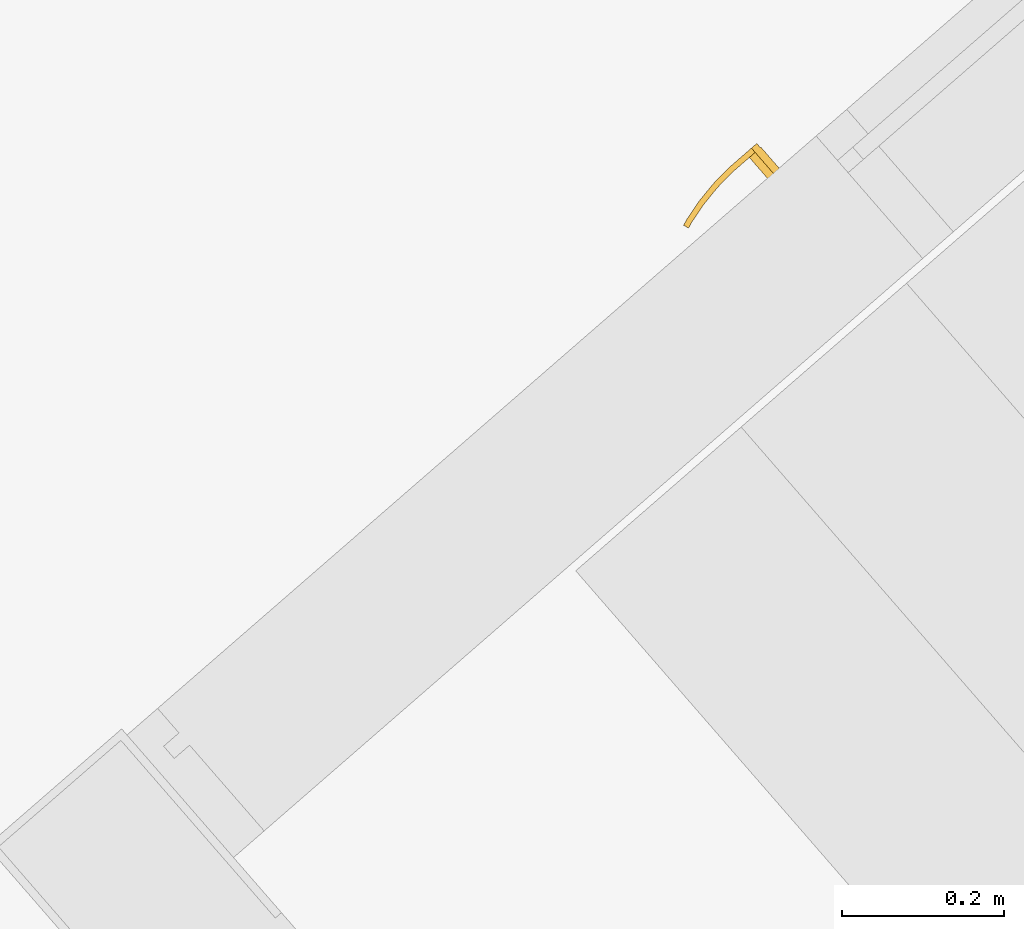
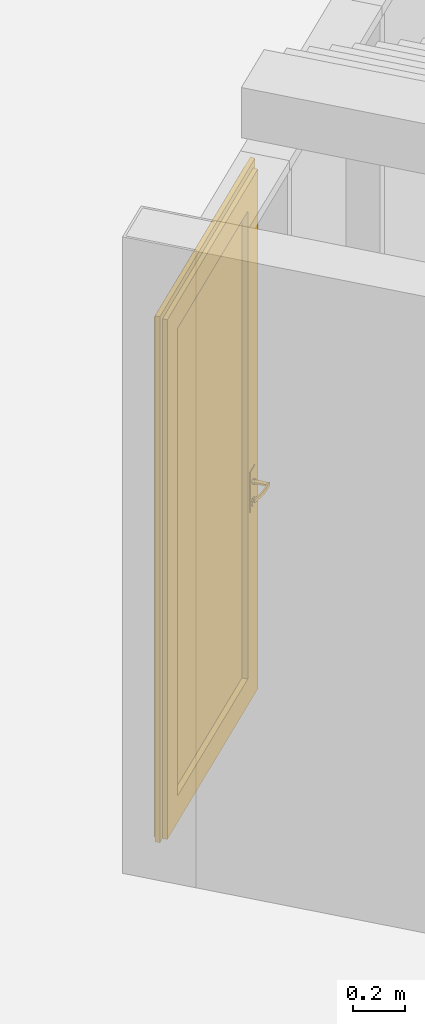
# One storey, part 108 of 124: 1 door, 1 element without a shape of its own.
"""IFC2X3 building model written with IfcOpenShell, lengths in millimetres."""

from ifc_helpers import new_model, entity, si_unit, converted_unit, derived_unit, money_unit, direction, frame, origin_with_axes, place, context, subcontext, project, spatial, open_shell, faceted_brep, surface_model, material, material_list, type_object, element, aggregate, save


model = new_model("IFC2X3")

# Units and contexts
model_context = context("Model", 3, precision=1e-05, world=origin_with_axes(), true_north=direction((0.0, 1.0)))
body_context = subcontext(model_context, "Body", "Model", "MODEL_VIEW")
ifc_project = project(units=[si_unit("LENGTHUNIT", "METRE", prefix="MILLI"), si_unit("AREAUNIT", "SQUARE_METRE"), si_unit("VOLUMEUNIT", "CUBIC_METRE"), converted_unit("PLANEANGLEUNIT", "DEGREE", entity("IfcPlaneAngleMeasure", 0.0174532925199), si_unit("PLANEANGLEUNIT", "RADIAN"), dimensions=[0, 0, 0, 0, 0, 0, 0]), si_unit("SOLIDANGLEUNIT", "STERADIAN"), money_unit("EUR"), converted_unit("TIMEUNIT", "Year", entity("IfcTimeMeasure", 31556926.0), si_unit("TIMEUNIT", "SECOND"), dimensions=[0, 0, 1, 0, 0, 0, 0]), si_unit("MASSUNIT", "GRAM", prefix="KILO"), si_unit("THERMODYNAMICTEMPERATUREUNIT", "DEGREE_CELSIUS"), si_unit("LUMINOUSINTENSITYUNIT", "LUMEN"), si_unit("ENERGYUNIT", "JOULE", prefix="MEGA"), derived_unit("THERMALCONDUCTANCEUNIT", [(si_unit("POWERUNIT", "WATT"), 1), (si_unit("LENGTHUNIT", "METRE"), -1), (si_unit("THERMODYNAMICTEMPERATUREUNIT", "KELVIN"), -1)]), derived_unit("SPECIFICHEATCAPACITYUNIT", [(si_unit("ENERGYUNIT", "JOULE"), 1), (si_unit("MASSUNIT", "GRAM", prefix="KILO"), -1), (si_unit("THERMODYNAMICTEMPERATUREUNIT", "KELVIN"), -1)]), derived_unit("MASSDENSITYUNIT", [(si_unit("MASSUNIT", "GRAM", prefix="KILO"), 1), (si_unit("VOLUMEUNIT", "CUBIC_METRE"), -1)])], contexts=[model_context])

# Site, building, storey
site_placement = place(None, origin_with_axes())
site = spatial("IfcSite", under=ifc_project, at=site_placement, Name="Site", CompositionType="ELEMENT")
building_placement = place(site_placement, origin_with_axes())
building = spatial("IfcBuilding", under=site, at=building_placement, Name="Building", CompositionType="ELEMENT")
storey_placement = place(building_placement, frame((0.0, 0.0, -1615.0), z_axis=(0.0, 0.0, 1.0), x_axis=(1.0, 0.0, 0.0)))
storey = spatial("IfcBuildingStorey", under=building, at=storey_placement, Name="0  korrus", CompositionType="ELEMENT", Elevation=-1615.0)

# Curtain wall, door
curtain_wall_type = type_object("IfcCurtainWallType", Name="KS-14", PredefinedType="NOTDEFINED")
curtain_wall_placement = place(storey_placement, frame((158378.483684, 89491.1525306, -3.95351700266e-05), z_axis=(0.0, 0.0, 1.0), x_axis=(1.0, 0.0, 0.0)))
curtain_wall = element("IfcCurtainWall", 1, at=curtain_wall_placement, inside=storey, type_object=curtain_wall_type, Name="Klaas-sein")
ifc_material_1 = material(Name="Aluminium MUST")
ifc_material_2 = material(Name="Klaas")
ifc_material_list = material_list([ifc_material_1, ifc_material_1, ifc_material_1, ifc_material_1, ifc_material_1, ifc_material_1, ifc_material_1, ifc_material_1, ifc_material_1, ifc_material_1, ifc_material_1, ifc_material_1, ifc_material_1, ifc_material_2, ifc_material_1, ifc_material_1, ifc_material_1, ifc_material_1, ifc_material_1, ifc_material_1, ifc_material_1, ifc_material_1, ifc_material_1, ifc_material_1, ifc_material_1, ifc_material_1, ifc_material_1, ifc_material_1])
door_style = type_object("IfcDoorStyle", Name="1130 x 380 x 20", ConstructionType="NOTDEFINED", OperationType="NOTDEFINED", ParameterTakesPrecedence=False, Sizeable=False)
door_placement = place(curtain_wall_placement, frame((-3339.58989105, -2903.06120493, 1533.33337045), z_axis=(0.0, 0.0, 1.0), x_axis=(0.754709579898, 0.656059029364, 0.0)))
door = element("IfcDoor", 2, at=door_placement, type_object=door_style, material=ifc_material_list, Name="Klaas-seina integreeritud siseuks * CW Door 22", context=body_context, shape_type="SurfaceModel", body=[
    faceted_brep([(-524.999994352, 20.0, -1533.33337045), (-524.999994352, 20.0, 916.666699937), (-524.999994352, 25.0, 916.666699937), (-524.999994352, 25.0, -1533.33337045), (-479.999994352, 20.0, -1533.33337045), (-479.999994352, 20.0, 871.666699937), (-479.999994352, 25.0, 871.666699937), (-479.999994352, 25.0, -1533.33337045)], [[[0, 1, 2, 3]], [[0, 4, 5, 1]], [[1, 5, 6, 2]], [[3, 2, 6, 7]], [[4, 0, 3, 7]], [[5, 4, 7, 6]]]),
    faceted_brep([(549.999999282, 20.0, 916.666699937), (504.999999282, 20.0, 871.666699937), (504.999999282, 25.0, 871.666699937), (549.999999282, 25.0, 916.666699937), (-524.999994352, 20.0, 916.666699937), (-479.999994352, 20.0, 871.666699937), (-479.999994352, 25.0, 871.666699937), (-524.999994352, 25.0, 916.666699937)], [[[0, 1, 2, 3]], [[0, 4, 5, 1]], [[1, 5, 6, 2]], [[3, 2, 6, 7]], [[4, 0, 3, 7]], [[5, 4, 7, 6]]]),
    faceted_brep([(549.999999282, 20.0, -1533.33337045), (504.999999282, 20.0, -1533.33337045), (504.999999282, 25.0, -1533.33337045), (549.999999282, 25.0, -1533.33337045), (549.999999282, 20.0, 916.666699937), (504.999999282, 20.0, 871.666699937), (504.999999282, 25.0, 871.666699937), (549.999999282, 25.0, 916.666699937)], [[[0, 1, 2, 3]], [[0, 4, 5, 1]], [[1, 5, 6, 2]], [[3, 2, 6, 7]], [[4, 0, 3, 7]], [[5, 4, 7, 6]]]),
    faceted_brep([(-524.999994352, -30.0, -1533.33337045), (-524.999994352, -30.0, 916.666699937), (-524.999994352, 20.0, 916.666699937), (-524.999994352, 20.0, -1533.33337045), (-504.999994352, -30.0, -1533.33337045), (-504.999994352, -30.0, 896.666699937), (-504.999994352, 20.0, 896.666699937), (-504.999994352, 20.0, -1533.33337045)], [[[0, 1, 2, 3]], [[0, 4, 5, 1]], [[1, 5, 6, 2]], [[3, 2, 6, 7]], [[4, 0, 3, 7]], [[5, 4, 7, 6]]]),
    faceted_brep([(549.999999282, -30.0, 916.666699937), (529.999999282, -30.0, 896.666699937), (529.999999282, 20.0, 896.666699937), (549.999999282, 20.0, 916.666699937), (-524.999994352, -30.0, 916.666699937), (-504.999994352, -30.0, 896.666699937), (-504.999994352, 20.0, 896.666699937), (-524.999994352, 20.0, 916.666699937)], [[[0, 1, 2, 3]], [[0, 4, 5, 1]], [[1, 5, 6, 2]], [[3, 2, 6, 7]], [[4, 0, 3, 7]], [[5, 4, 7, 6]]]),
    faceted_brep([(549.999999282, -30.0, -1533.33337045), (529.999999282, -30.0, -1533.33337045), (529.999999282, 20.0, -1533.33337045), (549.999999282, 20.0, -1533.33337045), (549.999999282, -30.0, 916.666699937), (529.999999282, -30.0, 896.666699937), (529.999999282, 20.0, 896.666699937), (549.999999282, 20.0, 916.666699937)], [[[0, 1, 2, 3]], [[0, 4, 5, 1]], [[1, 5, 6, 2]], [[3, 2, 6, 7]], [[4, 0, 3, 7]], [[5, 4, 7, 6]]]),
    faceted_brep([(-504.999994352, -30.0, -1533.33337045), (-504.999994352, -30.0, -1508.33337045), (-504.999994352, 20.0, -1508.33337045), (-504.999994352, 20.0, -1533.33337045), (529.999999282, -30.0, -1533.33337045), (529.999999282, -30.0, -1508.33337045), (529.999999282, 20.0, -1508.33337045), (529.999999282, 20.0, -1533.33337045)], [[[0, 1, 2, 3]], [[0, 4, 5, 1]], [[1, 5, 6, 2]], [[3, 2, 6, 7]], [[4, 0, 3, 7]], [[5, 4, 7, 6]]]),
    faceted_brep([(-555.00002516, -9.99999999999, -1533.33337045), (-555.00002516, -9.99999999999, 946.666715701), (-555.00002516, 10.0, 946.666715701), (-555.00002516, 10.0, -1533.33337045), (-524.999994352, -9.99999999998, -1533.33337045), (-524.999994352, -9.99999999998, 916.666699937), (-524.999994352, 10.0, 916.666699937), (-524.999994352, 10.0, -1533.33337045)], [[[0, 1, 2, 3]], [[0, 4, 5, 1]], [[1, 5, 6, 2]], [[3, 2, 6, 7]], [[4, 0, 3, 7]], [[5, 4, 7, 6]]]),
    faceted_brep([(-555.00002516, -9.99999999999, 946.666715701), (574.999984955, -9.99999999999, 946.666715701), (574.999984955, 10.0, 946.666715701), (-555.00002516, 10.0, 946.666715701), (-524.999994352, -9.99999999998, 916.666699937), (549.999999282, -9.99999999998, 916.666699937), (549.999999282, 10.0, 916.666699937), (-524.999994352, 10.0, 916.666699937)], [[[0, 1, 2, 3]], [[0, 4, 5, 1]], [[1, 5, 6, 2]], [[3, 2, 6, 7]], [[4, 0, 3, 7]], [[5, 4, 7, 6]]]),
    faceted_brep([(574.999984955, -9.99999999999, 946.666715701), (574.999984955, -9.99999999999, -1533.33337045), (574.999984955, 10.0, -1533.33337045), (574.999984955, 10.0, 946.666715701), (549.999999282, -9.99999999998, 916.666699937), (549.999999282, -9.99999999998, -1533.33337045), (549.999999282, 10.0, -1533.33337045), (549.999999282, 10.0, 916.666699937)], [[[0, 1, 2, 3]], [[0, 4, 5, 1]], [[1, 5, 6, 2]], [[3, 2, 6, 7]], [[4, 0, 3, 7]], [[5, 4, 7, 6]]]),
    faceted_brep([(429.999999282, 20.0, -1408.33337045), (429.999999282, -30.0, -1408.33337045), (429.999999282, -30.0, 796.666699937), (429.999999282, 20.0, 796.666699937), (529.999999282, 20.0, -1508.33337045), (529.999999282, -30.0, -1508.33337045), (529.999999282, -30.0, 896.666699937), (529.999999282, 20.0, 896.666699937)], [[[0, 1, 2, 3]], [[4, 5, 1, 0]], [[1, 5, 6, 2]], [[3, 2, 6, 7]], [[0, 3, 7, 4]], [[7, 6, 5, 4]]]),
    faceted_brep([(-504.999994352, 20.0, -1508.33337045), (-504.999994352, -30.0, -1508.33337045), (-504.999994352, -30.0, 896.666699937), (-504.999994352, 20.0, 896.666699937), (-404.999994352, 20.0, -1408.33337045), (-404.999994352, -30.0, -1408.33337045), (-404.999994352, -30.0, 796.666699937), (-404.999994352, 20.0, 796.666699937)], [[[0, 1, 2, 3]], [[4, 5, 1, 0]], [[1, 5, 6, 2]], [[3, 2, 6, 7]], [[0, 3, 7, 4]], [[7, 6, 5, 4]]]),
    faceted_brep([(-504.999994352, 20.0, -1508.33337045), (-504.999994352, -30.0, -1508.33337045), (-404.999994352, -30.0, -1408.33337045), (-404.999994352, 20.0, -1408.33337045), (529.999999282, 20.0, -1508.33337045), (529.999999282, -30.0, -1508.33337045), (429.999999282, -30.0, -1408.33337045), (429.999999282, 20.0, -1408.33337045)], [[[0, 1, 2, 3]], [[4, 5, 1, 0]], [[1, 5, 6, 2]], [[3, 2, 6, 7]], [[0, 3, 7, 4]], [[7, 6, 5, 4]]]),
    faceted_brep([(529.999999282, 20.0, 896.666699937), (529.999999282, -30.0, 896.666699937), (429.999999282, -30.0, 796.666699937), (429.999999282, 20.0, 796.666699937), (-504.999994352, 20.0, 896.666699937), (-504.999994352, -30.0, 896.666699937), (-404.999994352, -30.0, 796.666699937), (-404.999994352, 20.0, 796.666699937)], [[[0, 1, 2, 3]], [[4, 5, 1, 0]], [[1, 5, 6, 2]], [[3, 2, 6, 7]], [[0, 3, 7, 4]], [[7, 6, 5, 4]]]),
    faceted_brep([(429.999999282, 10.0, -1408.33337045), (429.999999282, -5.99999999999, -1408.33337045), (-404.999994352, -6.0, -1408.33337045), (-404.999994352, 10.0, -1408.33337045), (429.999999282, 10.0, 796.666699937), (429.999999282, -5.99999999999, 796.666699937), (-404.999994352, -6.0, 796.666699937), (-404.999994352, 10.0, 796.666699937)], [[[0, 1, 2, 3]], [[4, 5, 1, 0]], [[1, 5, 6, 2]], [[3, 2, 6, 7]], [[0, 3, 7, 4]], [[7, 6, 5, 4]]]),
    faceted_brep([(508.499999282, -30.0, -448.333370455), (451.499999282, -30.0, -448.333370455), (451.499999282, -33.0, -448.333370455), (508.499999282, -33.0, -448.333370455), (508.499999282, -30.0, -638.333370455), (451.499999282, -30.0, -638.333370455), (451.499999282, -33.0, -638.333370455), (508.499999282, -33.0, -638.333370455)], [[[0, 1, 2, 3]], [[0, 4, 5, 1]], [[1, 5, 6, 2]], [[3, 2, 6, 7]], [[4, 0, 3, 7]], [[5, 4, 7, 6]]]),
    surface_model("IfcShellBasedSurfaceModel", [(479.999999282, -94.0, -518.333370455), (488.66025332, -94.0, -513.333370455), (488.66025332, -101.0, -513.333370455), (479.999999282, -101.0, -518.333370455), (454.999999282, -94.0, -518.333370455), (454.999999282, -94.0, -498.333370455), (479.999999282, -94.0, -498.333370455), (488.66025332, -94.0, -503.333370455), (488.66025332, -101.0, -503.333370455), (479.999999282, -101.0, -498.333370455), (454.999999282, -101.0, -498.333370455), (454.999999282, -101.0, -518.333370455)], [open_shell([[[0, 1, 2, 3]], [[0, 4, 5, 6, 7, 1]], [[1, 7, 8, 2]], [[3, 2, 8, 9, 10, 11]], [[4, 0, 3, 11]], [[6, 5, 10, 9]], [[7, 6, 9, 8]]])]),
    surface_model("IfcShellBasedSurfaceModel", [(454.999999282, -94.0, -498.333370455), (441.901716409, -94.0, -498.726069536), (441.596089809, -101.0, -498.726069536), (454.999999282, -94.0, -518.333370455), (441.901716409, -94.0, -517.940671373), (414.890282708, -98.6635446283, -499.5114677), (454.999999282, -101.0, -498.333370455), (454.999999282, -101.0, -518.333370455), (415.804836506, -91.716818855, -517.155273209), (415.804836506, -91.716818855, -499.5114677), (414.890282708, -98.6635446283, -517.155273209), (441.596089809, -101.0, -517.940671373), (390.006255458, -87.1678329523, -516.369875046), (390.006255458, -87.1678329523, -500.296865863), (388.489734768, -94.0084157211, -500.296865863), (388.489734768, -94.0084157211, -516.369875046), (364.702316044, -80.3876628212, -515.584476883), (364.702316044, -80.3876628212, -501.082264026), (362.595370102, -87.0700416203, -501.082264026), (362.595370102, -87.0700416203, -515.584476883), (356.829441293, -77.5221707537, -515.333370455), (356.829441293, -77.5221707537, -501.333370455), (354.53879494, -84.1376880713, -501.333370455), (354.53879494, -84.1376880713, -515.333370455)], [open_shell([[[0, 1, 2]], [[0, 3, 4, 1]], [[1, 5, 2]], [[0, 2, 6]], [[4, 3, 7]], [[1, 4, 8, 9]], [[1, 9, 5]], [[2, 5, 10, 11]], [[6, 2, 11, 7]], [[4, 7, 11]], [[8, 4, 11]], [[9, 8, 12, 13]], [[9, 14, 5]], [[5, 14, 15, 10]], [[8, 11, 10]], [[12, 8, 10]], [[13, 12, 16, 17]], [[9, 13, 14]], [[14, 18, 19, 15]], [[12, 10, 15]], [[16, 12, 15]], [[17, 16, 20, 21]], [[13, 17, 18]], [[13, 18, 14]], [[18, 22, 23, 19]], [[16, 15, 19]], [[20, 16, 19]], [[21, 20, 23, 22]], [[17, 21, 22]], [[17, 22, 18]], [[20, 19, 23]]])]),
    faceted_brep([(476.291795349, -43.0, -519.74604865), (467.999999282, -43.0, -508.333370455), (466.999999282, -33.0, -508.333370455), (475.982778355, -33.0, -520.697105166), (489.708203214, -43.0, -515.386793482), (489.708203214, -43.0, -501.279947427), (476.291795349, -43.0, -496.920692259), (475.982778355, -33.0, -495.969635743), (490.517220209, -33.0, -500.692162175), (490.517220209, -33.0, -515.974578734)], [[[0, 1, 2, 3]], [[1, 0, 4, 5, 6]], [[1, 6, 7, 2]], [[2, 7, 8, 9, 3]], [[4, 0, 3, 9]], [[5, 4, 9, 8]], [[6, 5, 8, 7]]]),
    faceted_brep([(473.819659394, -37.0, -622.35450078), (459.999999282, -37.0, -603.333370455), (457.999999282, -33.0, -603.333370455), (473.201625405, -33.0, -624.256613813), (496.180339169, -37.0, -615.0890755), (496.180339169, -37.0, -591.577665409), (473.819659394, -37.0, -584.312240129), (473.201625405, -33.0, -582.410127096), (497.798373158, -33.0, -590.402094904), (497.798373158, -33.0, -616.264646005)], [[[0, 1, 2, 3]], [[1, 0, 4, 5, 6]], [[1, 6, 7, 2]], [[2, 7, 8, 9, 3]], [[4, 0, 3, 9]], [[5, 4, 9, 8]], [[6, 5, 8, 7]]]),
    faceted_brep([(477.836880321, -39.0, -600.990766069), (472.999999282, -39.0, -594.333370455), (471.999999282, -37.0, -594.333370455), (477.527863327, -37.0, -601.941822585), (485.663118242, -39.0, -598.447867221), (485.663118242, -39.0, -590.218873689), (477.836880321, -39.0, -587.67597484), (477.527863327, -37.0, -586.724918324), (486.472135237, -37.0, -589.631088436), (486.472135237, -37.0, -599.035652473)], [[[0, 1, 2, 3]], [[1, 0, 4, 5, 6]], [[1, 6, 7, 2]], [[2, 7, 8, 9, 3]], [[4, 0, 3, 9]], [[5, 4, 9, 8]], [[6, 5, 8, 7]]]),
    faceted_brep([(479.999999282, -43.0, -498.333370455), (470.489434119, -43.0, -505.243200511), (470.489434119, -94.0, -505.243200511), (479.999999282, -94.0, -498.333370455), (489.510564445, -43.0, -505.243200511), (485.877851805, -43.0, -516.423540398), (474.122146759, -43.0, -516.423540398), (474.122146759, -94.0, -516.423540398), (485.877851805, -94.0, -516.423540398), (489.510564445, -94.0, -505.243200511)], [[[0, 1, 2, 3]], [[0, 4, 5, 6, 1]], [[1, 6, 7, 2]], [[3, 2, 7, 8, 9]], [[4, 0, 3, 9]], [[5, 4, 9, 8]], [[6, 5, 8, 7]]]),
    faceted_brep([(508.499999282, 20.0, -448.333370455), (508.499999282, 23.0, -448.333370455), (451.499999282, 23.0, -448.333370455), (451.499999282, 20.0, -448.333370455), (508.499999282, 20.0, -638.333370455), (508.499999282, 23.0, -638.333370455), (451.499999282, 23.0, -638.333370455), (451.499999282, 20.0, -638.333370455)], [[[0, 1, 2, 3]], [[4, 5, 1, 0]], [[1, 5, 6, 2]], [[3, 2, 6, 7]], [[0, 3, 7, 4]], [[7, 6, 5, 4]]]),
    surface_model("IfcShellBasedSurfaceModel", [(479.999999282, 84.0, -518.333370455), (479.999999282, 91.0, -518.333370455), (488.66025332, 91.0, -513.333370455), (488.66025332, 84.0, -513.333370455), (454.999999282, 84.0, -518.333370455), (454.999999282, 91.0, -518.333370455), (454.999999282, 91.0, -498.333370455), (479.999999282, 91.0, -498.333370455), (488.66025332, 91.0, -503.333370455), (488.66025332, 84.0, -503.333370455), (479.999999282, 84.0, -498.333370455), (454.999999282, 84.0, -498.333370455)], [open_shell([[[0, 1, 2, 3]], [[4, 5, 1, 0]], [[1, 5, 6, 7, 8, 2]], [[3, 2, 8, 9]], [[0, 3, 9, 10, 11, 4]], [[10, 7, 6, 11]], [[9, 8, 7, 10]]])]),
    surface_model("IfcShellBasedSurfaceModel", [(454.999999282, 84.0, -498.333370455), (441.596089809, 91.0, -498.726069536), (441.901716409, 84.0, -498.726069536), (454.999999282, 91.0, -498.333370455), (414.890282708, 88.6635446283, -499.5114677), (441.901716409, 84.0, -517.940671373), (454.999999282, 84.0, -518.333370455), (454.999999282, 91.0, -518.333370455), (441.596089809, 91.0, -517.940671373), (414.890282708, 88.6635446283, -517.155273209), (415.804836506, 81.716818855, -499.5114677), (415.804836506, 81.716818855, -517.155273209), (388.489734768, 84.0084157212, -516.369875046), (388.489734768, 84.0084157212, -500.296865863), (390.006255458, 77.1678329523, -500.296865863), (390.006255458, 77.1678329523, -516.369875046), (362.595370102, 77.0700416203, -515.584476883), (362.595370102, 77.0700416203, -501.082264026), (364.702316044, 70.3876628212, -501.082264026), (364.702316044, 70.3876628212, -515.584476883), (354.53879494, 74.1376880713, -515.333370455), (354.53879494, 74.1376880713, -501.333370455), (356.829441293, 67.5221707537, -501.333370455), (356.829441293, 67.5221707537, -515.333370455)], [open_shell([[[0, 1, 2]], [[0, 3, 1]], [[2, 1, 4]], [[0, 2, 5, 6]], [[3, 7, 8, 1]], [[1, 8, 9, 4]], [[2, 4, 10]], [[2, 10, 11, 5]], [[5, 7, 6]], [[5, 8, 7]], [[11, 9, 8]], [[4, 9, 12, 13]], [[10, 4, 13]], [[10, 14, 15, 11]], [[11, 8, 5]], [[15, 9, 11]], [[15, 12, 9]], [[13, 12, 16, 17]], [[10, 13, 14]], [[14, 18, 19, 15]], [[19, 12, 15]], [[19, 16, 12]], [[17, 16, 20, 21]], [[14, 13, 17]], [[14, 17, 18]], [[18, 22, 23, 19]], [[23, 16, 19]], [[23, 20, 16]], [[22, 21, 20, 23]], [[18, 17, 21]], [[18, 21, 22]]])]),
    faceted_brep([(476.291795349, 33.0, -519.74604865), (475.982778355, 23.0, -520.697105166), (466.999999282, 23.0, -508.333370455), (467.999999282, 33.0, -508.333370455), (489.708203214, 33.0, -515.386793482), (490.517220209, 23.0, -515.974578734), (490.517220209, 23.0, -500.692162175), (475.982778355, 23.0, -495.969635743), (476.291795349, 33.0, -496.920692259), (489.708203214, 33.0, -501.279947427)], [[[0, 1, 2, 3]], [[4, 5, 1, 0]], [[2, 1, 5, 6, 7]], [[3, 2, 7, 8]], [[3, 8, 9, 4, 0]], [[9, 6, 5, 4]], [[8, 7, 6, 9]]]),
    faceted_brep([(473.819659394, 27.0, -622.35450078), (473.201625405, 23.0, -624.256613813), (457.999999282, 23.0, -603.333370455), (459.999999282, 27.0, -603.333370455), (496.180339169, 27.0, -615.0890755), (497.798373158, 23.0, -616.264646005), (497.798373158, 23.0, -590.402094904), (473.201625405, 23.0, -582.410127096), (473.819659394, 27.0, -584.312240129), (496.180339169, 27.0, -591.577665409)], [[[0, 1, 2, 3]], [[4, 5, 1, 0]], [[2, 1, 5, 6, 7]], [[3, 2, 7, 8]], [[3, 8, 9, 4, 0]], [[9, 6, 5, 4]], [[8, 7, 6, 9]]]),
    faceted_brep([(477.836880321, 29.0, -600.990766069), (477.527863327, 27.0, -601.941822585), (471.999999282, 27.0, -594.333370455), (472.999999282, 29.0, -594.333370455), (485.663118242, 29.0, -598.447867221), (486.472135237, 27.0, -599.035652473), (486.472135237, 27.0, -589.631088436), (477.527863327, 27.0, -586.724918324), (477.836880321, 29.0, -587.67597484), (485.663118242, 29.0, -590.218873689)], [[[0, 1, 2, 3]], [[4, 5, 1, 0]], [[2, 1, 5, 6, 7]], [[3, 2, 7, 8]], [[3, 8, 9, 4, 0]], [[9, 6, 5, 4]], [[8, 7, 6, 9]]]),
    faceted_brep([(479.999999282, 33.0, -498.333370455), (479.999999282, 84.0, -498.333370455), (470.489434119, 84.0, -505.243200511), (470.489434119, 33.0, -505.243200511), (489.510564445, 33.0, -505.243200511), (489.510564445, 84.0, -505.243200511), (485.877851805, 84.0, -516.423540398), (474.122146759, 84.0, -516.423540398), (474.122146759, 33.0, -516.423540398), (485.877851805, 33.0, -516.423540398)], [[[0, 1, 2, 3]], [[4, 5, 1, 0]], [[1, 5, 6, 7, 2]], [[3, 2, 7, 8]], [[0, 3, 8, 9, 4]], [[9, 6, 5, 4]], [[8, 7, 6, 9]]]),
])
aggregate(curtain_wall, [door])

save(model, "model.ifc")
